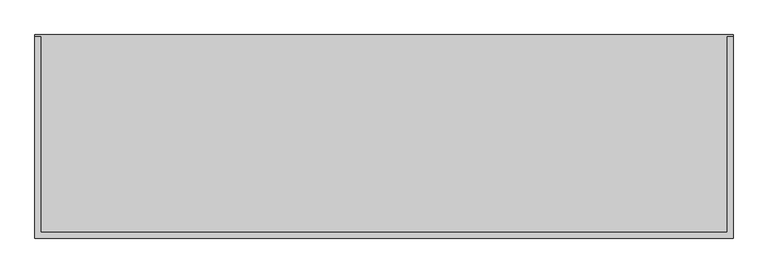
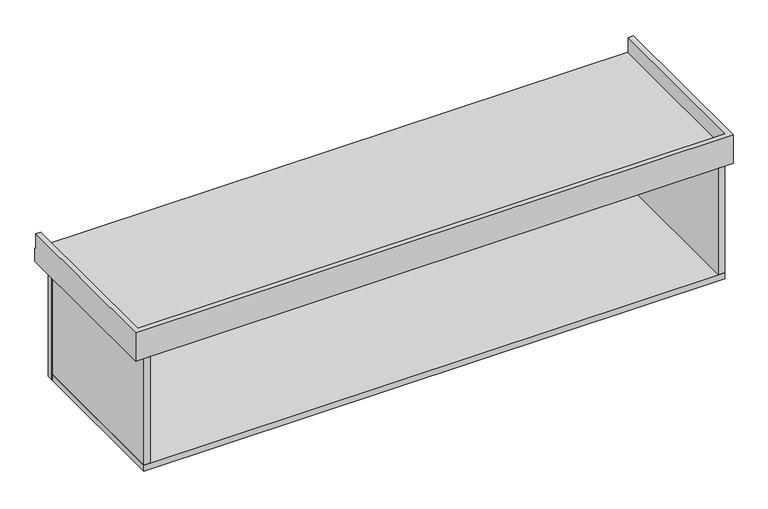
"""IFC4 building model written with IfcOpenShell, lengths in millimetres: furniture geometry, Mueble colgado 2 cajones al lado - lavabo sobreponer : MB5 mueble baño colgado-2 cajones al lado 151."""

from ifc_helpers import new_model, si_unit, frame, origin, place, context, project, spatial, polyline, outline, extrude, faceted_brep, source, transform, mapped, element, save


def furniture_62a7106c(model_context):
    return source(origin(), model_context, "Body", "SolidModel", [
        extrude(outline(polyline([(-750.0, 550.0), (-750.0, 570.0), (120.0, 570.0), (120.0, 550.0), (-750.0, 550.0)])), frame((0.0, 0.0, 350.0), z_axis=(0.0, 0.0, 1.0), x_axis=(1.0, 0.0, 0.0)), (0.0, 0.0, 1.0), 350.0),
        faceted_brep([(-775.0, 590.0, 800.0), (-760.0, 590.0, 800.0), (-760.0, 590.0, 750.0), (-775.0, 590.0, 750.0), (-775.0, 70.0, 800.0), (1025.0, 70.0, 800.0), (1025.0, 590.0, 800.0), (1010.0, 590.0, 800.0), (1010.0, 85.0, 800.0), (-760.0, 85.0, 800.0), (-760.0, 85.0, 750.0), (-775.0, 595.0, 750.0), (-775.0, 595.0, 710.0), (-775.0, 70.0, 710.0), (1010.0, 85.0, 750.0), (1025.0, 70.0, 710.0), (1025.0, 590.0, 750.0), (1010.0, 590.0, 750.0), (1025.0, 595.0, 710.0), (1025.0, 595.0, 750.0)], [[[0, 1, 2, 3]], [[1, 0, 4, 5, 6, 7, 8, 9]], [[2, 1, 9, 10]], [[0, 3, 11, 12, 13, 4]], [[9, 8, 14, 10]], [[5, 4, 13, 15]], [[7, 6, 16, 17]], [[8, 7, 17, 14]], [[6, 5, 15, 18, 19, 16]], [[19, 11, 3, 2, 10, 14, 17, 16]], [[18, 15, 13, 12]], [[19, 18, 12, 11]]]),
        extrude(outline(polyline([(1000.0, 570.0), (1000.0, 550.0), (130.0, 550.0), (130.0, 570.0), (1000.0, 570.0)])), frame((0.0, 0.0, 350.0), z_axis=(0.0, 0.0, 1.0), x_axis=(1.0, 0.0, 0.0)), (0.0, 0.0, 1.0), 350.0),
        extrude(outline(polyline([(1000.0, 70.0), (980.0, 70.0), (980.0, 545.0), (1000.0, 545.0), (1000.0, 70.0)])), frame((0.0, 0.0, 370.0), z_axis=(0.0, 0.0, 1.0), x_axis=(1.0, 0.0, 0.0)), (0.0, 0.0, 1.0), 340.0),
        extrude(outline(polyline([(-730.0, 70.0), (-750.0, 70.0), (-750.0, 545.0), (-730.0, 545.0), (-730.0, 70.0)])), frame((0.0, 0.0, 370.0), z_axis=(0.0, 0.0, 1.0), x_axis=(1.0, 0.0, 0.0)), (0.0, 0.0, 1.0), 340.0),
        extrude(outline(polyline([(1000.0, 545.0), (1000.0, 70.0), (-750.0, 70.0), (-750.0, 545.0), (1000.0, 545.0)])), frame((0.0, 0.0, 350.0), z_axis=(0.0, 0.0, 1.0), x_axis=(1.0, 0.0, 0.0)), (0.0, 0.0, 1.0), 20.0),
    ])


if __name__ == "__main__":
    model = new_model("IFC4")
    model_context = context("Model", 3, world=origin())
    ifc_project = project(units=[si_unit("LENGTHUNIT", "METRE", prefix="MILLI")], contexts=[model_context])
    site = spatial("IfcSite", under=ifc_project)
    building = spatial("IfcBuilding", under=site)
    placement = place(None, origin())
    furniture_shape = furniture_62a7106c(model_context)
    element("IfcFurniture", 1, ObjectType="Mueble colgado 2 cajones al lado - lavabo sobreponer : MB5 mueble baño colgado-2 cajones al lado 151", at=placement, inside=building, context=model_context, shape_type="MappedRepresentation", body=[
        mapped(furniture_shape, transform((0.0, 0.0, 0.0), x_axis=(1.0, 0.0, 0.0), y_axis=(0.0, 1.0, 0.0), z_axis=(0.0, 0.0, 1.0))),
    ])
    save(model, "model.ifc")
